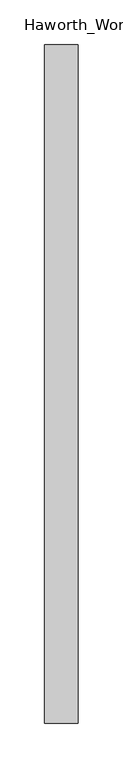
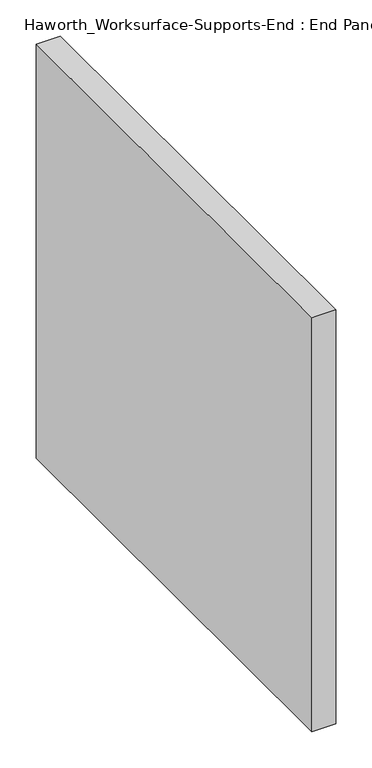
"""IFC4 building model written with IfcOpenShell, lengths in millimetres: furniture geometry, Haworth_Worksurface-Supports-End : End Panel Support."""

import ifcopenshell
import ifcopenshell.guid

model = None  # the IFC model being written
_history = None  # IfcOwnerHistory: only IFC2X3 demands one
_inside = {}  # id of a spatial element -> (the spatial element, [elements in it])
_under = {}  # id of a project, library or spatial element -> (it, [spatial elements below it])
_declared = {}  # id of a project -> (the project, [libraries it declares])
_typed = {}  # id of a type object -> (the type object, [elements of that type])
_made_of = {}  # id of a material, layer set ... -> (it, [elements and type objects made of it])


def new_model(schema):
    """Start an empty IFC model of exactly this schema.

    Asked for "IFC4X3", IfcOpenShell would pick the latest addendum, in which some entities
    have other attributes; the version numbers below select the first issue.
    IFC2X3 requires an IfcOwnerHistory on every rooted entity: one is made here for all.
    """
    global model, _history
    if schema == "IFC4X3":
        model = ifcopenshell.file(schema_version=(4, 3, 0, 0))
    else:
        model = ifcopenshell.file(schema=schema)
    _inside.clear()
    _under.clear()
    _declared.clear()
    _typed.clear()
    _made_of.clear()
    _history = None
    if model.schema == "IFC2X3":
        org = make("IfcOrganization", Name="unknown")
        user = make(
            "IfcPersonAndOrganization",
            ThePerson=make("IfcPerson", FamilyName="unknown"),
            TheOrganization=org,
        )
        app = make(
            "IfcApplication",
            ApplicationDeveloper=org,
            Version="unknown",
            ApplicationFullName="unknown",
            ApplicationIdentifier="unknown",
        )
        _history = make(
            "IfcOwnerHistory",
            OwningUser=user,
            OwningApplication=app,
            ChangeAction="ADDED",
            CreationDate=0,
        )
    return model


def make(cls, **values):
    """One entity of the class cls with the attributes given. An attribute that is None is left unset."""
    return model.create_entity(
        cls, **{name: value for name, value in values.items() if value is not None}
    )


def rooted(cls, **values):
    """An entity with a GlobalId (a new one), such as an element, a storey or a relation."""
    return make(cls, GlobalId=ifcopenshell.guid.new(), OwnerHistory=_history, **values)


def si_unit(unit_type, name, prefix=None):
    """IfcSIUnit, for example si_unit("LENGTHUNIT", "METRE", prefix="MILLI")."""
    return make("IfcSIUnit", UnitType=unit_type, Prefix=prefix, Name=name)


def assignment(units):
    """IfcUnitAssignment: the units of a project."""
    return None if units is None else make("IfcUnitAssignment", Units=units)


def point(xyz):
    """IfcCartesianPoint."""
    return None if xyz is None else make("IfcCartesianPoint", Coordinates=xyz)


def direction(xyz):
    """IfcDirection."""
    return None if xyz is None else make("IfcDirection", DirectionRatios=xyz)


def frame(location, z_axis=None, x_axis=None):
    """IfcAxis2Placement3D, a coordinate frame: its origin and axes. An axis left out is left unset."""
    return make(
        "IfcAxis2Placement3D",
        Location=point(location),
        Axis=direction(z_axis),
        RefDirection=direction(x_axis),
    )


def origin():
    """The frame at (0, 0, 0) with its axes left unset."""
    return frame((0.0, 0.0, 0.0))


def origin_with_axes():
    """The frame at (0, 0, 0) with the z axis (0, 0, 1) and the x axis (1, 0, 0) written out."""
    return frame((0.0, 0.0, 0.0), z_axis=(0.0, 0.0, 1.0), x_axis=(1.0, 0.0, 0.0))


def place(relative_to, where):
    """IfcLocalPlacement: puts the frame where relative to a parent placement (None: the world)."""
    return make(
        "IfcLocalPlacement", PlacementRelTo=relative_to, RelativePlacement=where
    )


def context(
    kind, dimensions, precision=None, world=None, true_north=None, identifier=None
):
    """IfcGeometricRepresentationContext, for example the 3D "Model" context."""
    return make(
        "IfcGeometricRepresentationContext",
        ContextIdentifier=identifier,
        ContextType=kind,
        CoordinateSpaceDimension=dimensions,
        Precision=precision,
        WorldCoordinateSystem=world,
        TrueNorth=true_north,
    )


def project(units=None, contexts=None):
    """IfcProject with its units and contexts."""
    return rooted(
        "IfcProject",
        Name="project",
        RepresentationContexts=contexts,
        UnitsInContext=assignment(units),
    )


def spatial(cls, under=None, at=None, **own):
    """A site, building, storey or space (cls), placed at a placement, below another one or the project."""
    s = rooted(cls, ObjectPlacement=at, **own)
    if under is not None:
        _under.setdefault(under.id(), (under, []))[1].append(s)
    return s


def polyline(points):
    """IfcPolyline through the points."""
    return make("IfcPolyline", Points=[point(p) for p in points])


def outline(outer, holes=None, kind="AREA"):
    """IfcArbitraryClosedProfileDef: a profile drawn as a closed curve; with holes, ...WithVoids."""
    if holes is None:
        return make("IfcArbitraryClosedProfileDef", ProfileType=kind, OuterCurve=outer)
    return make(
        "IfcArbitraryProfileDefWithVoids",
        ProfileType=kind,
        OuterCurve=outer,
        InnerCurves=holes,
    )


def extrude(swept, where, along, depth):
    """IfcExtrudedAreaSolid: the profile swept, set in the frame where, extruded along a direction by depth."""
    return make(
        "IfcExtrudedAreaSolid",
        SweptArea=swept,
        Position=where,
        ExtrudedDirection=direction(along),
        Depth=depth,
    )


def shape(context_of_items, identifier, shape_type, items):
    """IfcShapeRepresentation: the items that make up one representation, for example the "Body"."""
    return make(
        "IfcShapeRepresentation",
        ContextOfItems=context_of_items,
        RepresentationIdentifier=identifier,
        RepresentationType=shape_type,
        Items=items,
    )


def source(mapping_origin, context_of_items, identifier, shape_type, items):
    """IfcRepresentationMap: a shape defined once, which mapped items show again and again."""
    return make(
        "IfcRepresentationMap",
        MappingOrigin=mapping_origin,
        MappedRepresentation=shape(context_of_items, identifier, shape_type, items),
    )


def transform(
    local_origin,
    x_axis=None,
    y_axis=None,
    z_axis=None,
    scale=None,
    scale2=None,
    scale3=None,
    uniform=True,
):
    """IfcCartesianTransformationOperator3D, or its non-uniform kind. x_axis, y_axis, z_axis: its Axis1, 2, 3."""
    if uniform:
        return make(
            "IfcCartesianTransformationOperator3D",
            Axis1=direction(x_axis),
            Axis2=direction(y_axis),
            LocalOrigin=point(local_origin),
            Scale=scale,
            Axis3=direction(z_axis),
        )
    return make(
        "IfcCartesianTransformationOperator3DnonUniform",
        Axis1=direction(x_axis),
        Axis2=direction(y_axis),
        LocalOrigin=point(local_origin),
        Scale=scale,
        Axis3=direction(z_axis),
        Scale2=scale2,
        Scale3=scale3,
    )


def mapped(mapping_source, mapping_target):
    """IfcMappedItem: shows the shape of a source again, moved by a transform."""
    return make(
        "IfcMappedItem", MappingSource=mapping_source, MappingTarget=mapping_target
    )


def made_of(thing, what):
    """Note that an element or type object is made of a material, layer set ...; save() writes the relation."""
    if what is not None:
        _made_of.setdefault(what.id(), (what, []))[1].append(thing)
    return thing


def element(
    cls,
    number,
    at=None,
    inside=None,
    cuts=None,
    type_object=None,
    material=None,
    context=None,
    identifier="Body",
    shape_type=None,
    held_by="IfcProductDefinitionShape",
    body=None,
    shapes=None,
    **own,
):
    """One element of the class cls, such as IfcWall. Its Tag is "e" and its number.

    at: its placement. inside: the storey or other place that contains it. cuts: it is an
    opening in that element (IfcRelVoidsElement). A single representation is given by context,
    identifier, shape_type and body (its items); several are given by shapes. held_by: the class
    of the entity that holds the representations. save() writes the other relations.
    """
    e = rooted(cls, Tag="e%d" % number, ObjectPlacement=at, **own)
    if body is not None:
        shapes = [shape(context, identifier, shape_type, body)]
    if shapes is not None:
        e.Representation = make(held_by, Representations=shapes)
    if inside is not None:
        _inside.setdefault(inside.id(), (inside, []))[1].append(e)
    if cuts is not None:
        rooted(
            "IfcRelVoidsElement", RelatingBuildingElement=cuts, RelatedOpeningElement=e
        )
    if type_object is not None:
        _typed.setdefault(type_object.id(), (type_object, []))[1].append(e)
    return made_of(e, material)


def aggregate(whole, parts):
    """IfcRelAggregates: a whole, such as a stair, and the parts it consists of."""
    return rooted("IfcRelAggregates", RelatingObject=whole, RelatedObjects=parts)


def save(model, path):
    """Write the relations noted so far, then the file.

    IfcRelAggregates (storeys below a building ...), IfcRelContainedInSpatialStructure (elements
    in a storey), IfcRelDefinesByType, IfcRelAssociatesMaterial and IfcRelDeclares: one each for
    every whole, place, type object, material and project.
    """
    for whole, parts in _under.values():
        aggregate(whole, parts)
    for where, things in _inside.values():
        rooted(
            "IfcRelContainedInSpatialStructure",
            RelatedElements=things,
            RelatingStructure=where,
        )
    for kind, things in _typed.values():
        rooted("IfcRelDefinesByType", RelatedObjects=things, RelatingType=kind)
    for what, things in _made_of.values():
        rooted("IfcRelAssociatesMaterial", RelatedObjects=things, RelatingMaterial=what)
    for by, libraries in _declared.values():
        rooted("IfcRelDeclares", RelatingContext=by, RelatedDefinitions=libraries)
    model.write(path)


def haworth_worksurface_supports_end_end_panel_support_87966947(model_context):
    return source(origin(), model_context, "Body", "SweptSolid", [
        extrude(outline(polyline([(234.95, -181.2465234), (196.85, -181.2465234), (196.85, 580.7534766), (234.95, 580.7534766), (234.95, -181.2465234)])), origin_with_axes(), (0.0, 0.0, 1.0), 698.5),
    ])


if __name__ == "__main__":
    model = new_model("IFC4")
    model_context = context("Model", 3, world=origin())
    ifc_project = project(units=[si_unit("LENGTHUNIT", "METRE", prefix="MILLI")], contexts=[model_context])
    site = spatial("IfcSite", under=ifc_project)
    building = spatial("IfcBuilding", under=site)
    placement = place(None, origin())
    haworth_worksurface_supports_end_end_panel_support_shape = haworth_worksurface_supports_end_end_panel_support_87966947(model_context)
    element("IfcFurniture", 1, ObjectType="Haworth_Worksurface-Supports-End : End Panel Support", at=placement, inside=building, context=model_context, shape_type="MappedRepresentation", body=[
        mapped(haworth_worksurface_supports_end_end_panel_support_shape, transform((0.0, 0.0, 0.0), x_axis=(1.0, 0.0, 0.0), y_axis=(0.0, 1.0, 0.0), z_axis=(0.0, 0.0, 1.0))),
    ])
    save(model, "model.ifc")
